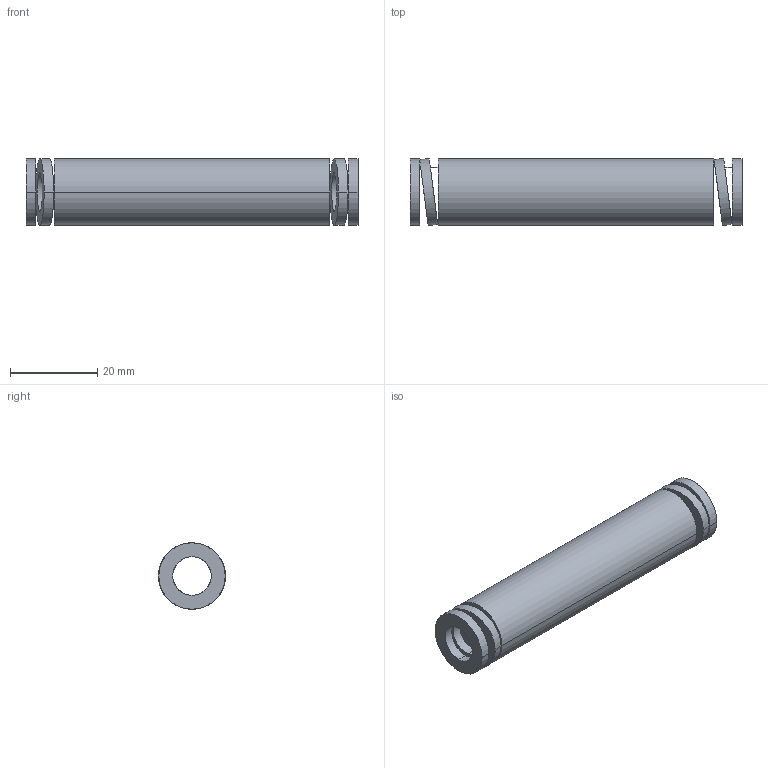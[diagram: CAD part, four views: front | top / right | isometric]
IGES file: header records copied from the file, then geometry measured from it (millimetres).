
Start section: START RECORD GO HERE.
Global section: file name: 392-B16-076.igs; native system: DASSAULT SYSTEMES CATIA V5 R20 - www.3ds.com; preprocessor: CATIA Version 5 Release 20 ; author: Utente; organization: NB04-ASUS; date: 20210812.160432; units: millimetre
Bounding box: 76 x 15.36 x 15.2 mm (x, y, z)
Surface area: 6634.5 mm2 (no closed solid volume)
Topology: 0 solids, 0 shells, 38 faces, 184 edges, 184 vertices
Faces by surface type: revolution 28, plane 10
